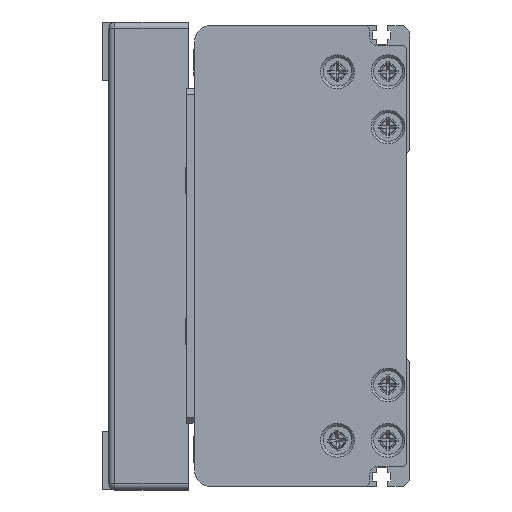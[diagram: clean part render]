
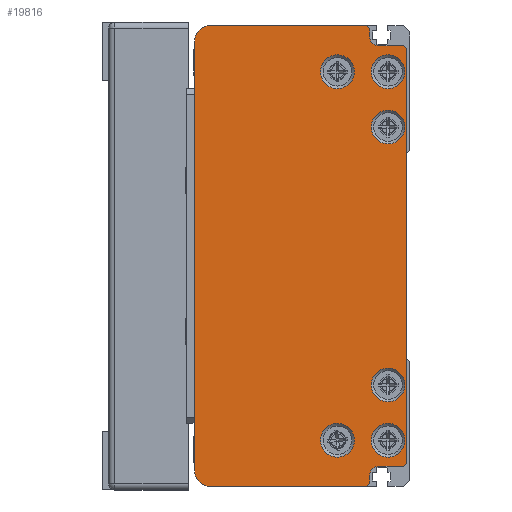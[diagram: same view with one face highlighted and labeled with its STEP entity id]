
A CAD part, left-side view. The second image highlights one B-rep face of the part: STEP entity #19816.
In plain terms, the highlighted planar face has unit normal (-1, 0, 0) as drawn and (0, 0, -1) by its records, which use the part's own axes.
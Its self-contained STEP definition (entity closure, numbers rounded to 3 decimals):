
#934=LINE('',#28642,#2599);
#935=LINE('',#28646,#2600);
#936=LINE('',#28648,#2601);
#937=LINE('',#28650,#2602);
#938=LINE('',#28654,#2603);
#939=LINE('',#28656,#2604);
#940=LINE('',#28658,#2605);
#941=LINE('',#28660,#2606);
#942=LINE('',#28662,#2607);
#943=LINE('',#28666,#2608);
#944=LINE('',#28668,#2609);
#945=LINE('',#28670,#2610);
#2599=VECTOR('',#23255,140.);
#2600=VECTOR('',#23258,51.);
#2601=VECTOR('',#23259,1.414);
#2602=VECTOR('',#23260,2.5);
#2603=VECTOR('',#23263,8.);
#2604=VECTOR('',#23264,1.414);
#2605=VECTOR('',#23265,135.);
#2606=VECTOR('',#23266,1.414);
#2607=VECTOR('',#23267,8.);
#2608=VECTOR('',#23270,2.5);
#2609=VECTOR('',#23271,1.414);
#2610=VECTOR('',#23272,51.);
#4217=PLANE('',#21174);
#4844=FACE_BOUND('',#6672,.T.);
#4845=FACE_BOUND('',#6673,.T.);
#4846=FACE_BOUND('',#6674,.T.);
#4847=FACE_BOUND('',#6675,.T.);
#4848=FACE_BOUND('',#6676,.T.);
#4849=FACE_BOUND('',#6677,.T.);
#5395=FACE_OUTER_BOUND('',#6671,.T.);
#6671=EDGE_LOOP('',(#13911,#13912,#13913,#13914,#13915,#13916,#13917,#13918,
#13919,#13920,#13921,#13922,#13923,#13924,#13925,#13926));
#6672=EDGE_LOOP('',(#13927));
#6673=EDGE_LOOP('',(#13928));
#6674=EDGE_LOOP('',(#13929));
#6675=EDGE_LOOP('',(#13930));
#6676=EDGE_LOOP('',(#13931));
#6677=EDGE_LOOP('',(#13932));
#8177=CIRCLE('',#21175,5.);
#8178=CIRCLE('',#21176,3.);
#8179=CIRCLE('',#21177,3.);
#8180=CIRCLE('',#21178,5.);
#8181=CIRCLE('',#21179,5.5);
#8182=CIRCLE('',#21180,5.5);
#8183=CIRCLE('',#21181,5.5);
#8184=CIRCLE('',#21182,5.5);
#8185=CIRCLE('',#21183,5.5);
#8186=CIRCLE('',#21184,5.5);
#8865=VERTEX_POINT('',#28640);
#8866=VERTEX_POINT('',#28641);
#8867=VERTEX_POINT('',#28643);
#8868=VERTEX_POINT('',#28645);
#8869=VERTEX_POINT('',#28647);
#8870=VERTEX_POINT('',#28649);
#8871=VERTEX_POINT('',#28651);
#8872=VERTEX_POINT('',#28653);
#8873=VERTEX_POINT('',#28655);
#8874=VERTEX_POINT('',#28657);
#8875=VERTEX_POINT('',#28659);
#8876=VERTEX_POINT('',#28661);
#8877=VERTEX_POINT('',#28663);
#8878=VERTEX_POINT('',#28665);
#8879=VERTEX_POINT('',#28667);
#8880=VERTEX_POINT('',#28669);
#8881=VERTEX_POINT('',#28672);
#8882=VERTEX_POINT('',#28674);
#8883=VERTEX_POINT('',#28676);
#8884=VERTEX_POINT('',#28678);
#8885=VERTEX_POINT('',#28680);
#8886=VERTEX_POINT('',#28682);
#10897=EDGE_CURVE('',#8865,#8866,#934,.T.);
#10898=EDGE_CURVE('',#8866,#8867,#8177,.T.);
#10899=EDGE_CURVE('',#8867,#8868,#935,.T.);
#10900=EDGE_CURVE('',#8868,#8869,#936,.T.);
#10901=EDGE_CURVE('',#8869,#8870,#937,.T.);
#10902=EDGE_CURVE('',#8870,#8871,#8178,.T.);
#10903=EDGE_CURVE('',#8871,#8872,#938,.T.);
#10904=EDGE_CURVE('',#8872,#8873,#939,.T.);
#10905=EDGE_CURVE('',#8873,#8874,#940,.T.);
#10906=EDGE_CURVE('',#8874,#8875,#941,.T.);
#10907=EDGE_CURVE('',#8875,#8876,#942,.T.);
#10908=EDGE_CURVE('',#8876,#8877,#8179,.T.);
#10909=EDGE_CURVE('',#8877,#8878,#943,.T.);
#10910=EDGE_CURVE('',#8878,#8879,#944,.T.);
#10911=EDGE_CURVE('',#8879,#8880,#945,.T.);
#10912=EDGE_CURVE('',#8880,#8865,#8180,.T.);
#10913=EDGE_CURVE('',#8881,#8881,#8181,.T.);
#10914=EDGE_CURVE('',#8882,#8882,#8182,.T.);
#10915=EDGE_CURVE('',#8883,#8883,#8183,.T.);
#10916=EDGE_CURVE('',#8884,#8884,#8184,.T.);
#10917=EDGE_CURVE('',#8885,#8885,#8185,.T.);
#10918=EDGE_CURVE('',#8886,#8886,#8186,.T.);
#13911=ORIENTED_EDGE('',*,*,#10897,.T.);
#13912=ORIENTED_EDGE('',*,*,#10898,.T.);
#13913=ORIENTED_EDGE('',*,*,#10899,.T.);
#13914=ORIENTED_EDGE('',*,*,#10900,.T.);
#13915=ORIENTED_EDGE('',*,*,#10901,.T.);
#13916=ORIENTED_EDGE('',*,*,#10902,.T.);
#13917=ORIENTED_EDGE('',*,*,#10903,.T.);
#13918=ORIENTED_EDGE('',*,*,#10904,.T.);
#13919=ORIENTED_EDGE('',*,*,#10905,.T.);
#13920=ORIENTED_EDGE('',*,*,#10906,.T.);
#13921=ORIENTED_EDGE('',*,*,#10907,.T.);
#13922=ORIENTED_EDGE('',*,*,#10908,.T.);
#13923=ORIENTED_EDGE('',*,*,#10909,.T.);
#13924=ORIENTED_EDGE('',*,*,#10910,.T.);
#13925=ORIENTED_EDGE('',*,*,#10911,.T.);
#13926=ORIENTED_EDGE('',*,*,#10912,.T.);
#13927=ORIENTED_EDGE('',*,*,#10913,.T.);
#13928=ORIENTED_EDGE('',*,*,#10914,.T.);
#13929=ORIENTED_EDGE('',*,*,#10915,.T.);
#13930=ORIENTED_EDGE('',*,*,#10916,.T.);
#13931=ORIENTED_EDGE('',*,*,#10917,.T.);
#13932=ORIENTED_EDGE('',*,*,#10918,.T.);
#19816=ADVANCED_FACE('',(#5395,#4844,#4845,#4846,#4847,#4848,#4849),#4217,
 .F.);
#21174=AXIS2_PLACEMENT_3D('',#28639,#23253,#23254);
#21175=AXIS2_PLACEMENT_3D('',#28644,#23256,#23257);
#21176=AXIS2_PLACEMENT_3D('',#28652,#23261,#23262);
#21177=AXIS2_PLACEMENT_3D('',#28664,#23268,#23269);
#21178=AXIS2_PLACEMENT_3D('',#28671,#23273,#23274);
#21179=AXIS2_PLACEMENT_3D('',#28673,#23275,#23276);
#21180=AXIS2_PLACEMENT_3D('',#28675,#23277,#23278);
#21181=AXIS2_PLACEMENT_3D('',#28677,#23279,#23280);
#21182=AXIS2_PLACEMENT_3D('',#28679,#23281,#23282);
#21183=AXIS2_PLACEMENT_3D('',#28681,#23283,#23284);
#21184=AXIS2_PLACEMENT_3D('',#28683,#23285,#23286);
#23253=DIRECTION('center_axis',(0.,0.,
1.));
#23254=DIRECTION('ref_axis',(1.,0.,0.));
#23255=DIRECTION('',(1.,0.,0.));
#23256=DIRECTION('center_axis',(0.,0.,
-1.));
#23257=DIRECTION('ref_axis',(-1.,0.,0.));
#23258=DIRECTION('',(0.,-1.,0.));
#23259=DIRECTION('',(-0.707,-0.707,0.));
#23260=DIRECTION('',(-1.,0.,0.));
#23261=DIRECTION('center_axis',(0.,0.,
1.));
#23262=DIRECTION('ref_axis',(0.,1.,0.));
#23263=DIRECTION('',(0.,-1.,0.));
#23264=DIRECTION('',(-0.707,-0.707,0.));
#23265=DIRECTION('',(-1.,0.,0.));
#23266=DIRECTION('',(-0.707,0.707,0.));
#23267=DIRECTION('',(0.,1.,0.));
#23268=DIRECTION('center_axis',(0.,0.,
1.));
#23269=DIRECTION('ref_axis',(1.,0.,0.));
#23270=DIRECTION('',(-1.,0.,0.));
#23271=DIRECTION('',(-0.707,0.707,0.));
#23272=DIRECTION('',(0.,1.,0.));
#23273=DIRECTION('center_axis',(0.,0.,
-1.));
#23274=DIRECTION('ref_axis',(0.,-1.,0.));
#23275=DIRECTION('center_axis',(0.,0.,
1.));
#23276=DIRECTION('ref_axis',(-1.,0.,0.));
#23277=DIRECTION('center_axis',(0.,0.,
1.));
#23278=DIRECTION('ref_axis',(-1.,0.,0.));
#23279=DIRECTION('center_axis',(0.,0.,
1.));
#23280=DIRECTION('ref_axis',(-1.,0.,0.));
#23281=DIRECTION('center_axis',(0.,0.,
1.));
#23282=DIRECTION('ref_axis',(-1.,0.,0.));
#23283=DIRECTION('center_axis',(0.,0.,
1.));
#23284=DIRECTION('ref_axis',(-1.,0.,0.));
#23285=DIRECTION('center_axis',(0.,0.,
1.));
#23286=DIRECTION('ref_axis',(-1.,0.,0.));
#28639=CARTESIAN_POINT('Origin',(0.25,38.047,-1019.));
#28640=CARTESIAN_POINT('',(-69.75,72.25,-1019.));
#28641=CARTESIAN_POINT('',(70.25,72.25,-1019.));
#28642=CARTESIAN_POINT('',(-69.75,72.25,-1019.));
#28643=CARTESIAN_POINT('',(75.25,67.25,-1019.));
#28644=CARTESIAN_POINT('Origin',(70.25,67.25,-1019.));
#28645=CARTESIAN_POINT('',(75.25,16.25,-1019.));
#28646=CARTESIAN_POINT('',(75.25,67.25,-1019.));
#28647=CARTESIAN_POINT('',(74.25,15.25,-1019.));
#28648=CARTESIAN_POINT('',(75.25,16.25,-1019.));
#28649=CARTESIAN_POINT('',(71.75,15.25,-1019.));
#28650=CARTESIAN_POINT('',(74.25,15.25,-1019.));
#28651=CARTESIAN_POINT('',(68.75,12.25,-1019.));
#28652=CARTESIAN_POINT('Origin',(71.75,12.25,-1019.));
#28653=CARTESIAN_POINT('',(68.75,4.25,-1019.));
#28654=CARTESIAN_POINT('',(68.75,12.25,-1019.));
#28655=CARTESIAN_POINT('',(67.75,3.25,-1019.));
#28656=CARTESIAN_POINT('',(68.75,4.25,-1019.));
#28657=CARTESIAN_POINT('',(-67.25,3.25,-1019.));
#28658=CARTESIAN_POINT('',(67.75,3.25,-1019.));
#28659=CARTESIAN_POINT('',(-68.25,4.25,-1019.));
#28660=CARTESIAN_POINT('',(-67.25,3.25,-1019.));
#28661=CARTESIAN_POINT('',(-68.25,12.25,-1019.));
#28662=CARTESIAN_POINT('',(-68.25,4.25,-1019.));
#28663=CARTESIAN_POINT('',(-71.25,15.25,-1019.));
#28664=CARTESIAN_POINT('Origin',(-71.25,12.25,-1019.));
#28665=CARTESIAN_POINT('',(-73.75,15.25,-1019.));
#28666=CARTESIAN_POINT('',(-71.25,15.25,-1019.));
#28667=CARTESIAN_POINT('',(-74.75,16.25,-1019.));
#28668=CARTESIAN_POINT('',(-73.75,15.25,-1019.));
#28669=CARTESIAN_POINT('',(-74.75,67.25,-1019.));
#28670=CARTESIAN_POINT('',(-74.75,16.25,-1019.));
#28671=CARTESIAN_POINT('Origin',(-69.75,67.25,-1019.));
#28672=CARTESIAN_POINT('',(-47.25,9.25,-1019.));
#28673=CARTESIAN_POINT('Origin',(-41.75,9.25,-1019.));
#28674=CARTESIAN_POINT('',(36.75,9.25,-1019.));
#28675=CARTESIAN_POINT('Origin',(42.25,9.25,-1019.));
#28676=CARTESIAN_POINT('',(-65.25,25.75,-1019.));
#28677=CARTESIAN_POINT('Origin',(-59.75,25.75,-1019.));
#28678=CARTESIAN_POINT('',(54.75,25.75,-1019.));
#28679=CARTESIAN_POINT('Origin',(60.25,25.75,-1019.));
#28680=CARTESIAN_POINT('',(-65.25,9.25,-1019.));
#28681=CARTESIAN_POINT('Origin',(-59.75,9.25,-1019.));
#28682=CARTESIAN_POINT('',(54.75,9.25,-1019.));
#28683=CARTESIAN_POINT('Origin',(60.25,9.25,-1019.));
